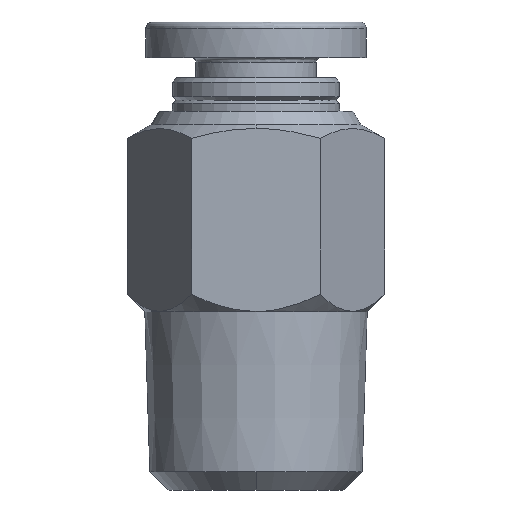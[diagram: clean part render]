
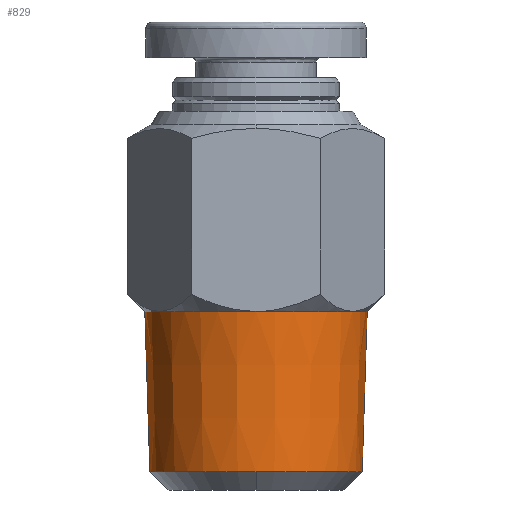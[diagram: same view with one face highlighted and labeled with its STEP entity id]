
A CAD part, front view. The second image highlights one B-rep face of the part: STEP entity #829.
In plain terms, the highlighted conical face has half-angle 1.79 degrees and reference radius 4.99 mm.
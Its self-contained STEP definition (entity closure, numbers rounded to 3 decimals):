
#20 = CARTESIAN_POINT ( 'NONE',  ( 0., 0., 8. ) ) ;
#33 = ORIENTED_EDGE ( 'NONE', *, *, #991, .T. ) ;
#43 = DIRECTION ( 'NONE',  ( -0.995, 0.104, 0. ) ) ;
#46 = ORIENTED_EDGE ( 'NONE', *, *, #1547, .F. ) ;
#68 = AXIS2_PLACEMENT_3D ( 'NONE', #749, #766, #82 ) ;
#82 = DIRECTION ( 'NONE',  ( -0.995, 0.104, 0. ) ) ;
#90 = LINE ( 'NONE', #896, #282 ) ;
#128 = FACE_OUTER_BOUND ( 'NONE', #1406, .T. ) ;
#186 = DIRECTION ( 'NONE',  ( -0.995, 0.104, 0. ) ) ;
#199 = ORIENTED_EDGE ( 'NONE', *, *, #1172, .T. ) ;
#203 = CARTESIAN_POINT ( 'NONE',  ( -4.99, 0., 8. ) ) ;
#245 = AXIS2_PLACEMENT_3D ( 'NONE', #20, #1222, #950 ) ;
#282 = VECTOR ( 'NONE', #1300, 1000. ) ;
#285 = DIRECTION ( 'NONE',  ( 1., 0., 0. ) ) ;
#330 = CIRCLE ( 'NONE', #245, 4.99 ) ;
#362 = LINE ( 'NONE', #203, #1333 ) ;
#439 = DIRECTION ( 'NONE',  ( 0., 0., 1. ) ) ;
#484 = AXIS2_PLACEMENT_3D ( 'NONE', #1237, #439, #186 ) ;
#491 = EDGE_CURVE ( 'NONE', #498, #1472, #330, .T. ) ;
#498 = VERTEX_POINT ( 'NONE', #1492 ) ;
#552 = CARTESIAN_POINT ( 'NONE',  ( 0., -4.765, 0.815 ) ) ;
#612 = ORIENTED_EDGE ( 'NONE', *, *, #975, .T. ) ;
#739 = ORIENTED_EDGE ( 'NONE', *, *, #1235, .T. ) ;
#749 = CARTESIAN_POINT ( 'NONE',  ( 0., 0., 8. ) ) ;
#766 = DIRECTION ( 'NONE',  ( 0., 0., -1. ) ) ;
#783 = CARTESIAN_POINT ( 'NONE',  ( 4.765, 0., 0.815 ) ) ;
#820 = CIRCLE ( 'NONE', #68, 4.99 ) ;
#829 = ADVANCED_FACE ( '20', ( #128 ), #1193, .T. ) ;
#876 = VERTEX_POINT ( 'NONE', #958 ) ;
#881 = DIRECTION ( 'NONE',  ( -0.031, 0., 1. ) ) ;
#896 = CARTESIAN_POINT ( 'NONE',  ( 4.99, 0., 8. ) ) ;
#939 = ORIENTED_EDGE ( 'NONE', *, *, #491, .T. ) ;
#950 = DIRECTION ( 'NONE',  ( -0.995, 0.104, 0. ) ) ;
#958 = CARTESIAN_POINT ( 'NONE',  ( -4.765, 0., 0.815 ) ) ;
#975 = EDGE_CURVE ( 'NONE', #1663, #498, #820, .T. ) ;
#991 = EDGE_CURVE ( 'NONE', #1281, #1663, #90, .T. ) ;
#1090 = CARTESIAN_POINT ( 'NONE',  ( -4.99, 0., 8. ) ) ;
#1093 = CARTESIAN_POINT ( 'NONE',  ( 0., 0., 0.815 ) ) ;
#1172 = EDGE_CURVE ( 'NONE', #1353, #1281, #1206, .T. ) ;
#1193 = CONICAL_SURFACE ( 'NONE', #1521, 4.99, 0.031 ) ;
#1194 = CARTESIAN_POINT ( 'NONE',  ( 0., 0., 8. ) ) ;
#1206 = CIRCLE ( 'NONE', #1594, 4.765 ) ;
#1210 = CARTESIAN_POINT ( 'NONE',  ( 4.99, 0., 8. ) ) ;
#1222 = DIRECTION ( 'NONE',  ( 0., 0., -1. ) ) ;
#1235 = EDGE_CURVE ( 'NONE', #876, #1353, #1440, .T. ) ;
#1237 = CARTESIAN_POINT ( 'NONE',  ( 0., 0., 0.815 ) ) ;
#1281 = VERTEX_POINT ( 'NONE', #783 ) ;
#1300 = DIRECTION ( 'NONE',  ( 0.031, 0., 1. ) ) ;
#1333 = VECTOR ( 'NONE', #881, 1000. ) ;
#1353 = VERTEX_POINT ( 'NONE', #552 ) ;
#1373 = DIRECTION ( 'NONE',  ( 0., 0., 1. ) ) ;
#1406 = EDGE_LOOP ( 'NONE', ( #46, #739, #199, #33, #612, #939 ) ) ;
#1440 = CIRCLE ( 'NONE', #484, 4.765 ) ;
#1472 = VERTEX_POINT ( 'NONE', #1090 ) ;
#1486 = DIRECTION ( 'NONE',  ( 0., 0., 1. ) ) ;
#1492 = CARTESIAN_POINT ( 'NONE',  ( 0., -4.99, 8. ) ) ;
#1521 = AXIS2_PLACEMENT_3D ( 'NONE', #1194, #1486, #285 ) ;
#1547 = EDGE_CURVE ( 'NONE', #876, #1472, #362, .T. ) ;
#1594 = AXIS2_PLACEMENT_3D ( 'NONE', #1093, #1373, #43 ) ;
#1663 = VERTEX_POINT ( 'NONE', #1210 ) ;
